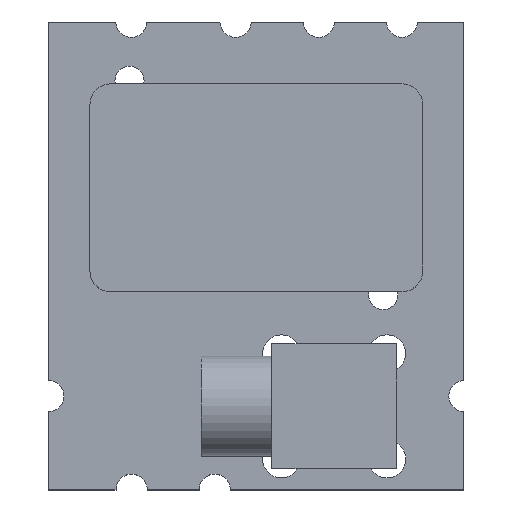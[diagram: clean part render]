
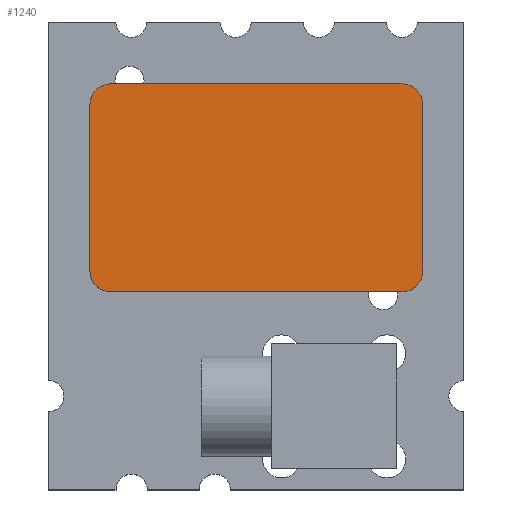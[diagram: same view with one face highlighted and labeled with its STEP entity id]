
A CAD part, top view. The second image highlights one B-rep face of the part: STEP entity #1240.
In plain terms, the highlighted planar face has unit normal (0, 0, 1).
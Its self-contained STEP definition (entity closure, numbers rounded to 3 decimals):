
#975 = VERTEX_POINT('',#976);
#976 = CARTESIAN_POINT('',(-7.,-5.,3.));
#982 = EDGE_CURVE('',#975,#983,#985,.T.);
#983 = VERTEX_POINT('',#984);
#984 = CARTESIAN_POINT('',(7.,-5.,3.));
#985 = LINE('',#986,#987);
#986 = CARTESIAN_POINT('',(-7.,-5.,3.));
#987 = VECTOR('',#988,1.);
#988 = DIRECTION('',(1.,0.,0.));
#1022 = VERTEX_POINT('',#1023);
#1023 = CARTESIAN_POINT('',(8.,-4.,3.));
#1029 = EDGE_CURVE('',#983,#1022,#1030,.T.);
#1030 = CIRCLE('',#1031,1.);
#1031 = AXIS2_PLACEMENT_3D('',#1032,#1033,#1034);
#1032 = CARTESIAN_POINT('',(7.,-4.,3.));
#1033 = DIRECTION('',(0.,0.,1.));
#1034 = DIRECTION('',(1.,0.,-0.));
#1046 = EDGE_CURVE('',#1022,#1047,#1049,.T.);
#1047 = VERTEX_POINT('',#1048);
#1048 = CARTESIAN_POINT('',(8.,4.,3.));
#1049 = LINE('',#1050,#1051);
#1050 = CARTESIAN_POINT('',(8.,-4.,3.));
#1051 = VECTOR('',#1052,1.);
#1052 = DIRECTION('',(0.,1.,0.));
#1086 = VERTEX_POINT('',#1087);
#1087 = CARTESIAN_POINT('',(7.,5.,3.));
#1093 = EDGE_CURVE('',#1047,#1086,#1094,.T.);
#1094 = CIRCLE('',#1095,1.);
#1095 = AXIS2_PLACEMENT_3D('',#1096,#1097,#1098);
#1096 = CARTESIAN_POINT('',(7.,4.,3.));
#1097 = DIRECTION('',(0.,0.,1.));
#1098 = DIRECTION('',(1.,0.,-0.));
#1110 = EDGE_CURVE('',#1086,#1111,#1113,.T.);
#1111 = VERTEX_POINT('',#1112);
#1112 = CARTESIAN_POINT('',(-7.,5.,3.));
#1113 = LINE('',#1114,#1115);
#1114 = CARTESIAN_POINT('',(7.,5.,3.));
#1115 = VECTOR('',#1116,1.);
#1116 = DIRECTION('',(-1.,0.,0.));
#1150 = VERTEX_POINT('',#1151);
#1151 = CARTESIAN_POINT('',(-8.,4.,3.));
#1157 = EDGE_CURVE('',#1111,#1150,#1158,.T.);
#1158 = CIRCLE('',#1159,1.);
#1159 = AXIS2_PLACEMENT_3D('',#1160,#1161,#1162);
#1160 = CARTESIAN_POINT('',(-7.,4.,3.));
#1161 = DIRECTION('',(0.,0.,1.));
#1162 = DIRECTION('',(1.,0.,-0.));
#1174 = EDGE_CURVE('',#1150,#1175,#1177,.T.);
#1175 = VERTEX_POINT('',#1176);
#1176 = CARTESIAN_POINT('',(-8.,-4.,3.));
#1177 = LINE('',#1178,#1179);
#1178 = CARTESIAN_POINT('',(-8.,4.,3.));
#1179 = VECTOR('',#1180,1.);
#1180 = DIRECTION('',(0.,-1.,0.));
#1212 = EDGE_CURVE('',#1175,#975,#1213,.T.);
#1213 = CIRCLE('',#1214,1.);
#1214 = AXIS2_PLACEMENT_3D('',#1215,#1216,#1217);
#1215 = CARTESIAN_POINT('',(-7.,-4.,3.));
#1216 = DIRECTION('',(0.,0.,1.));
#1217 = DIRECTION('',(1.,0.,-0.));
#1240 = ADVANCED_FACE('',(#1241),#1251,.T.);
#1241 = FACE_BOUND('',#1242,.T.);
#1242 = EDGE_LOOP('',(#1243,#1244,#1245,#1246,#1247,#1248,#1249,#1250));
#1243 = ORIENTED_EDGE('',*,*,#982,.T.);
#1244 = ORIENTED_EDGE('',*,*,#1029,.T.);
#1245 = ORIENTED_EDGE('',*,*,#1046,.T.);
#1246 = ORIENTED_EDGE('',*,*,#1093,.T.);
#1247 = ORIENTED_EDGE('',*,*,#1110,.T.);
#1248 = ORIENTED_EDGE('',*,*,#1157,.T.);
#1249 = ORIENTED_EDGE('',*,*,#1174,.T.);
#1250 = ORIENTED_EDGE('',*,*,#1212,.T.);
#1251 = PLANE('',#1252);
#1252 = AXIS2_PLACEMENT_3D('',#1253,#1254,#1255);
#1253 = CARTESIAN_POINT('',(0.,0.,3.));
#1254 = DIRECTION('',(0.,0.,1.));
#1255 = DIRECTION('',(1.,0.,-0.));
